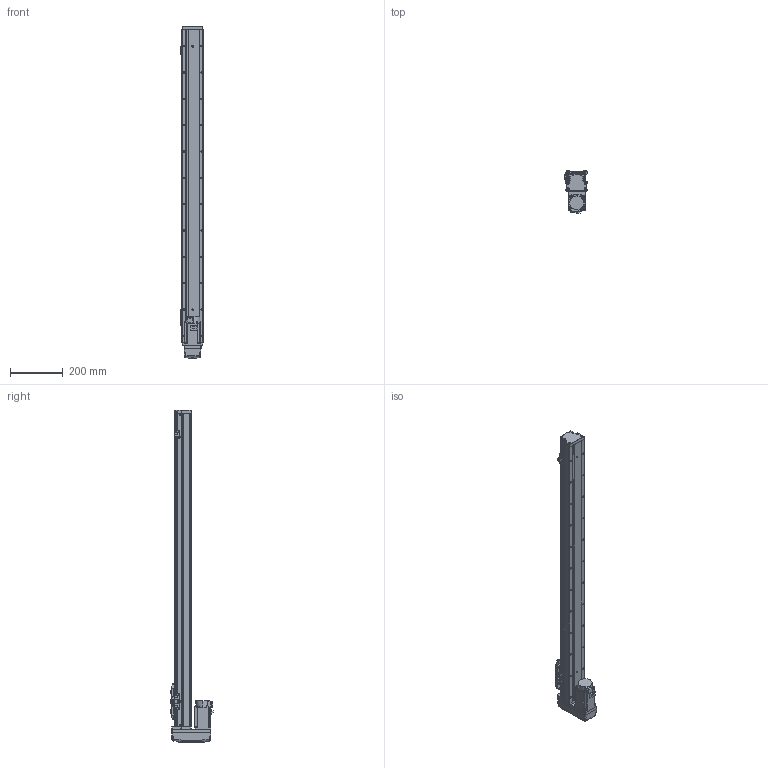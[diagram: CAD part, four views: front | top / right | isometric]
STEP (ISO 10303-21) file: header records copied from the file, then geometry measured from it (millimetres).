
FILE_DESCRIPTION (( 'STEP AP203' ), '1' );
FILE_NAME ('GTH8-1000-BM-M20-C4.step', '2022-09-23T01:03:50', ( '微软用户' ), ( '微软中国' ), 'SwSTEP 2.0', 'SolidWorks 2020', '' );
FILE_SCHEMA (( 'CONFIG_CONTROL_DESIGN' ));
Length unit declared in the file: millimetre
Products named in the file (18): GTH80-006; GTH8-1000-BM-M20-C4; GTH80-013; GTH50-023; GBT 70.3-M3℅6; GBT96.1-2002 3×0.8; GTH80-022; BTH-M3X5X6; GBT 70.1-M3℅6; GTH80-001_1000; hg-kn43j_-s100_; GBT 70.1-M4×16; GTH80-003; CTHA86-015-1_CTHA86-015-2; GTH80-028; GTH80-004; CTHA86-033_M40B; GTH50-024
Assembly tree (57 placements, depth 2):
  GTH8-1000-BM-M20-C4
    GTH80-001_1000
    GTH80-003
    GTH80-004
    GTH80-006
    GTH80-013
    GBT 70.3-M3℅6  x4
    GTH80-022
    GBT 70.1-M3℅6  x14
    GBT 70.1-M4×16  x8
    GTH80-028  x2
    GTH50-024  x3
    GTH50-023  x3
    GBT96.1-2002 3×0.8  x6
    BTH-M3X5X6  x8
    hg-kn43j_-s100_
    CTHA86-015-1_CTHA86-015-2
    CTHA86-033_M40B
Bounding box: 86.9 x 160.3 x 1261 mm (x, y, z)
Volume: 6140312.6 mm3; surface area: 597168.7 mm2
Topology: 59 solids, 59 shells, 2256 faces, 5223 edges, 3203 vertices
Faces by surface type: plane 1187, cylinder 627, cone 260, torus 166, bspline 8, sphere 8
Entity records: 41514 total; most frequent: CARTESIAN_POINT 7289, DIRECTION 6761, ORIENTED_EDGE 6264, EDGE_CURVE 3132, AXIS2_PLACEMENT_3D 2373, LINE 2015, VECTOR 2015, VERTEX_POINT 1978
